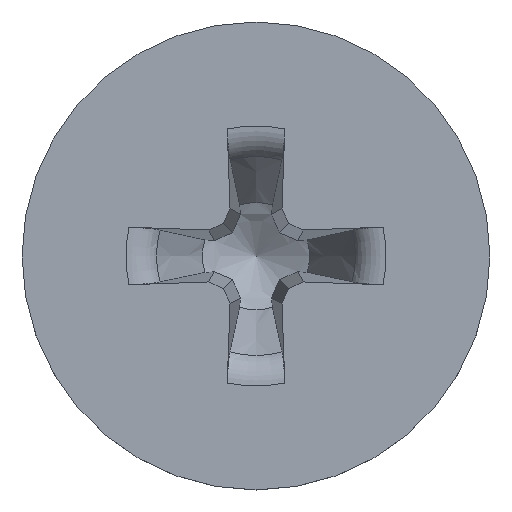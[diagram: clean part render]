
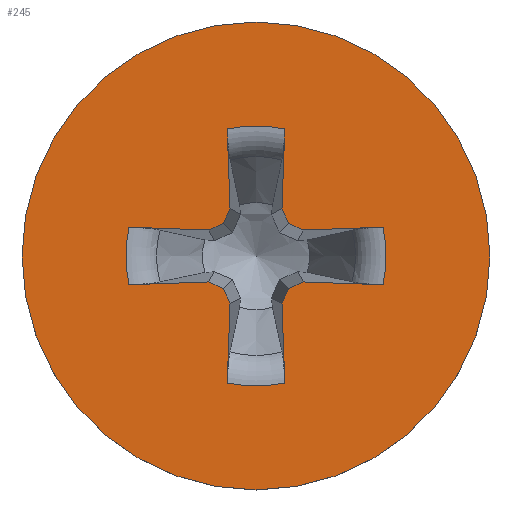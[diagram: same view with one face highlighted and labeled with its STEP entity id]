
A CAD part, top view. The second image highlights one B-rep face of the part: STEP entity #245.
In plain terms, the highlighted planar face has unit normal (0, 0, 1).
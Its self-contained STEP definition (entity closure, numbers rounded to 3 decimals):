
#74=LINE('',#2393,#136);
#75=LINE('',#2398,#137);
#76=LINE('',#2400,#138);
#77=LINE('',#2402,#139);
#78=LINE('',#2404,#140);
#79=LINE('',#2408,#141);
#80=LINE('',#2410,#142);
#81=LINE('',#2412,#143);
#82=LINE('',#2414,#144);
#83=LINE('',#2418,#145);
#84=LINE('',#2420,#146);
#85=LINE('',#2422,#147);
#86=LINE('',#2424,#148);
#87=LINE('',#2428,#149);
#88=LINE('',#2430,#150);
#89=LINE('',#2432,#151);
#136=VECTOR('',#1304,1.);
#137=VECTOR('',#1307,1.);
#138=VECTOR('',#1308,1.);
#139=VECTOR('',#1309,1.);
#140=VECTOR('',#1310,1.);
#141=VECTOR('',#1313,1.);
#142=VECTOR('',#1314,1.);
#143=VECTOR('',#1315,1.);
#144=VECTOR('',#1316,1.);
#145=VECTOR('',#1319,1.);
#146=VECTOR('',#1320,1.);
#147=VECTOR('',#1321,1.);
#148=VECTOR('',#1322,1.);
#149=VECTOR('',#1325,1.);
#150=VECTOR('',#1326,1.);
#151=VECTOR('',#1327,1.);
#199=PLANE('',#1239);
#226=FACE_BOUND('',#396,.T.);
#227=FACE_BOUND('',#397,.T.);
#245=ADVANCED_FACE('',(#226,#227),#199,.F.);
#396=EDGE_LOOP('',(#602,#603,#604,#605,#606,#607,#608,#609,#610,#611,#612,
#613,#614,#615,#616,#617,#618,#619,#620,#621));
#397=EDGE_LOOP('',(#622));
#602=ORIENTED_EDGE('',*,*,#1060,.F.);
#603=ORIENTED_EDGE('',*,*,#1061,.T.);
#604=ORIENTED_EDGE('',*,*,#1062,.F.);
#605=ORIENTED_EDGE('',*,*,#1063,.F.);
#606=ORIENTED_EDGE('',*,*,#1064,.F.);
#607=ORIENTED_EDGE('',*,*,#1065,.F.);
#608=ORIENTED_EDGE('',*,*,#1066,.T.);
#609=ORIENTED_EDGE('',*,*,#1067,.F.);
#610=ORIENTED_EDGE('',*,*,#1068,.F.);
#611=ORIENTED_EDGE('',*,*,#1069,.F.);
#612=ORIENTED_EDGE('',*,*,#1070,.F.);
#613=ORIENTED_EDGE('',*,*,#1071,.T.);
#614=ORIENTED_EDGE('',*,*,#1072,.F.);
#615=ORIENTED_EDGE('',*,*,#1073,.F.);
#616=ORIENTED_EDGE('',*,*,#1074,.F.);
#617=ORIENTED_EDGE('',*,*,#1075,.F.);
#618=ORIENTED_EDGE('',*,*,#1076,.T.);
#619=ORIENTED_EDGE('',*,*,#1077,.F.);
#620=ORIENTED_EDGE('',*,*,#1078,.F.);
#621=ORIENTED_EDGE('',*,*,#1079,.F.);
#622=ORIENTED_EDGE('',*,*,#1080,.F.);
#945=VERTEX_POINT('',#2394);
#946=VERTEX_POINT('',#2395);
#947=VERTEX_POINT('',#2397);
#948=VERTEX_POINT('',#2399);
#949=VERTEX_POINT('',#2401);
#950=VERTEX_POINT('',#2403);
#951=VERTEX_POINT('',#2405);
#952=VERTEX_POINT('',#2407);
#953=VERTEX_POINT('',#2409);
#954=VERTEX_POINT('',#2411);
#955=VERTEX_POINT('',#2413);
#956=VERTEX_POINT('',#2415);
#957=VERTEX_POINT('',#2417);
#958=VERTEX_POINT('',#2419);
#959=VERTEX_POINT('',#2421);
#960=VERTEX_POINT('',#2423);
#961=VERTEX_POINT('',#2425);
#962=VERTEX_POINT('',#2427);
#963=VERTEX_POINT('',#2429);
#964=VERTEX_POINT('',#2431);
#965=VERTEX_POINT('',#2434);
#1060=EDGE_CURVE('',#945,#946,#74,.T.);
#1061=EDGE_CURVE('',#945,#947,#1206,.T.);
#1062=EDGE_CURVE('',#948,#947,#75,.T.);
#1063=EDGE_CURVE('',#949,#948,#76,.T.);
#1064=EDGE_CURVE('',#950,#949,#77,.T.);
#1065=EDGE_CURVE('',#951,#950,#78,.T.);
#1066=EDGE_CURVE('',#951,#952,#1207,.T.);
#1067=EDGE_CURVE('',#953,#952,#79,.T.);
#1068=EDGE_CURVE('',#954,#953,#80,.T.);
#1069=EDGE_CURVE('',#955,#954,#81,.T.);
#1070=EDGE_CURVE('',#956,#955,#82,.T.);
#1071=EDGE_CURVE('',#956,#957,#1208,.T.);
#1072=EDGE_CURVE('',#958,#957,#83,.T.);
#1073=EDGE_CURVE('',#959,#958,#84,.T.);
#1074=EDGE_CURVE('',#960,#959,#85,.T.);
#1075=EDGE_CURVE('',#961,#960,#86,.T.);
#1076=EDGE_CURVE('',#961,#962,#1209,.T.);
#1077=EDGE_CURVE('',#963,#962,#87,.T.);
#1078=EDGE_CURVE('',#964,#963,#88,.T.);
#1079=EDGE_CURVE('',#946,#964,#89,.T.);
#1080=EDGE_CURVE('',#965,#965,#1210,.T.);
#1206=CIRCLE('',#1234,2.784);
#1207=CIRCLE('',#1235,2.784);
#1208=CIRCLE('',#1236,2.784);
#1209=CIRCLE('',#1237,2.784);
#1210=CIRCLE('',#1238,5.);
#1234=AXIS2_PLACEMENT_3D('',#2396,#1305,#1306);
#1235=AXIS2_PLACEMENT_3D('',#2406,#1311,#1312);
#1236=AXIS2_PLACEMENT_3D('',#2416,#1317,#1318);
#1237=AXIS2_PLACEMENT_3D('',#2426,#1323,#1324);
#1238=AXIS2_PLACEMENT_3D('',#2433,#1328,#1329);
#1239=AXIS2_PLACEMENT_3D('',#2435,#1330,#1331);
#1304=DIRECTION('',(-0.999,-0.035,0.));
#1305=DIRECTION('',(0.,0.,-1.));
#1306=DIRECTION('',(-1.,0.,0.));
#1307=DIRECTION('',(0.999,-0.035,0.));
#1308=DIRECTION('',(0.906,0.423,0.));
#1309=DIRECTION('',(0.423,0.906,0.));
#1310=DIRECTION('',(-0.035,0.999,0.));
#1311=DIRECTION('',(0.,0.,-1.));
#1312=DIRECTION('',(-1.,0.,0.));
#1313=DIRECTION('',(-0.035,-0.999,0.));
#1314=DIRECTION('',(0.423,-0.906,0.));
#1315=DIRECTION('',(0.906,-0.423,0.));
#1316=DIRECTION('',(0.999,0.035,0.));
#1317=DIRECTION('',(0.,0.,-1.));
#1318=DIRECTION('',(-1.,0.,0.));
#1319=DIRECTION('',(-0.999,0.035,0.));
#1320=DIRECTION('',(-0.906,-0.423,0.));
#1321=DIRECTION('',(-0.423,-0.906,0.));
#1322=DIRECTION('',(0.035,-0.999,0.));
#1323=DIRECTION('',(0.,0.,-1.));
#1324=DIRECTION('',(-1.,0.,0.));
#1325=DIRECTION('',(0.035,0.999,0.));
#1326=DIRECTION('',(-0.423,0.906,0.));
#1327=DIRECTION('',(-0.906,0.423,0.));
#1328=DIRECTION('',(0.,0.,-1.));
#1329=DIRECTION('',(-1.,0.,0.));
#1330=DIRECTION('',(0.,0.,-1.));
#1331=DIRECTION('',(-1.,0.,0.));
#2393=CARTESIAN_POINT('',(-0.018,0.519,3.79));
#2394=CARTESIAN_POINT('',(2.715,0.615,3.79));
#2395=CARTESIAN_POINT('',(1.01,0.555,3.79));
#2396=CARTESIAN_POINT('',(0.,0.,3.79));
#2397=CARTESIAN_POINT('',(2.715,-0.615,3.79));
#2398=CARTESIAN_POINT('',(-0.018,-0.519,3.79));
#2399=CARTESIAN_POINT('',(1.01,-0.555,3.79));
#2400=CARTESIAN_POINT('',(0.393,-0.843,3.79));
#2401=CARTESIAN_POINT('',(0.7,-0.7,3.79));
#2402=CARTESIAN_POINT('',(0.843,-0.393,3.79));
#2403=CARTESIAN_POINT('',(0.555,-1.01,3.79));
#2404=CARTESIAN_POINT('',(0.519,0.018,3.79));
#2405=CARTESIAN_POINT('',(0.615,-2.715,3.79));
#2406=CARTESIAN_POINT('',(0.,0.,3.79));
#2407=CARTESIAN_POINT('',(-0.615,-2.715,3.79));
#2408=CARTESIAN_POINT('',(-0.519,0.018,3.79));
#2409=CARTESIAN_POINT('',(-0.555,-1.01,3.79));
#2410=CARTESIAN_POINT('',(-0.843,-0.393,3.79));
#2411=CARTESIAN_POINT('',(-0.7,-0.7,3.79));
#2412=CARTESIAN_POINT('',(-0.393,-0.843,3.79));
#2413=CARTESIAN_POINT('',(-1.01,-0.555,3.79));
#2414=CARTESIAN_POINT('',(0.018,-0.519,3.79));
#2415=CARTESIAN_POINT('',(-2.715,-0.615,3.79));
#2416=CARTESIAN_POINT('',(0.,0.,3.79));
#2417=CARTESIAN_POINT('',(-2.715,0.615,3.79));
#2418=CARTESIAN_POINT('',(0.018,0.519,3.79));
#2419=CARTESIAN_POINT('',(-1.01,0.555,3.79));
#2420=CARTESIAN_POINT('',(-0.393,0.843,3.79));
#2421=CARTESIAN_POINT('',(-0.7,0.7,3.79));
#2422=CARTESIAN_POINT('',(-0.843,0.393,3.79));
#2423=CARTESIAN_POINT('',(-0.555,1.01,3.79));
#2424=CARTESIAN_POINT('',(-0.519,-0.018,3.79));
#2425=CARTESIAN_POINT('',(-0.615,2.715,3.79));
#2426=CARTESIAN_POINT('',(0.,0.,3.79));
#2427=CARTESIAN_POINT('',(0.615,2.715,3.79));
#2428=CARTESIAN_POINT('',(0.519,-0.018,3.79));
#2429=CARTESIAN_POINT('',(0.555,1.01,3.79));
#2430=CARTESIAN_POINT('',(0.843,0.393,3.79));
#2431=CARTESIAN_POINT('',(0.7,0.7,3.79));
#2432=CARTESIAN_POINT('',(0.393,0.843,3.79));
#2433=CARTESIAN_POINT('',(0.,0.,3.79));
#2434=CARTESIAN_POINT('',(-5.,0.,3.79));
#2435=CARTESIAN_POINT('',(0.,0.,3.79));
